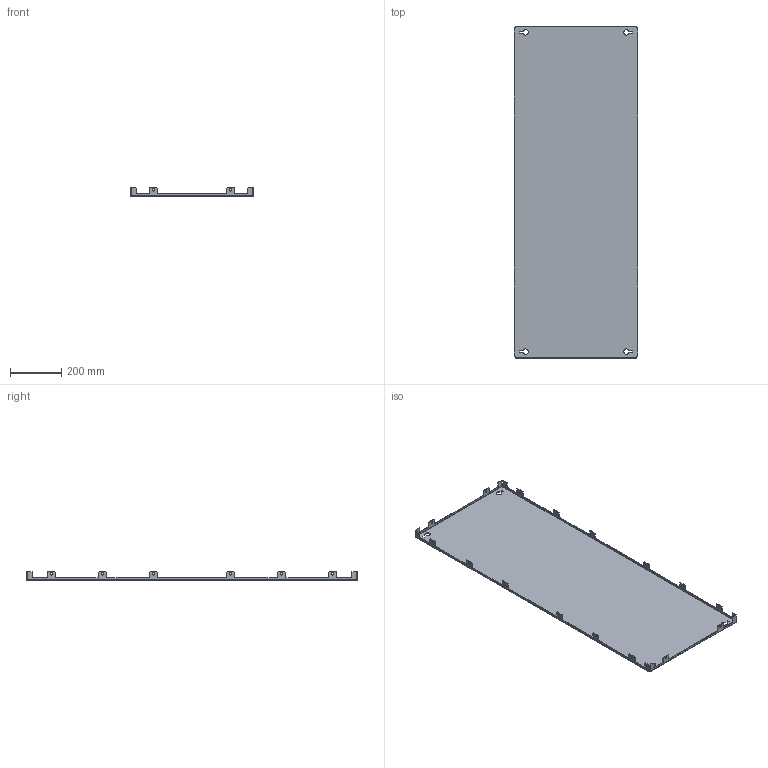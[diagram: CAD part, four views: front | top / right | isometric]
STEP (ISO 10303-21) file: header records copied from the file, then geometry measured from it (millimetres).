
FILE_DESCRIPTION (( 'STEP AP203' ), '1' );
FILE_NAME ('R5LPS1406.STEP', '2021-12-17T12:43:20', ( '' ), ( '' ), 'SwSTEP 2.0', 'SolidWorks 2020', '' );
FILE_SCHEMA (( 'CONFIG_CONTROL_DESIGN' ));
Length unit declared in the file: millimetre
Products named in the file (1): R5LPS1406
Bounding box: 484 x 1298 x 32.5 mm (x, y, z)
Volume: 1332009.9 mm3; surface area: 1342790.6 mm2
Topology: 1 solids, 1 shells, 328 faces, 946 edges, 620 vertices
Faces by surface type: plane 210, cylinder 118
Entity records: 10887 total; most frequent: CARTESIAN_POINT 1895, ORIENTED_EDGE 1892, DIRECTION 1840, EDGE_CURVE 946, LINE 710, VECTOR 710, VERTEX_POINT 620, AXIS2_PLACEMENT_3D 565
